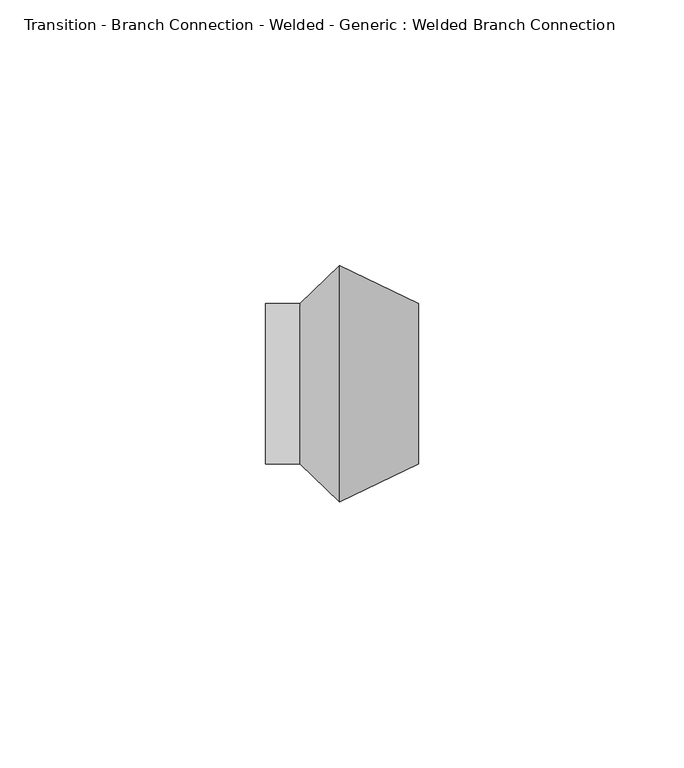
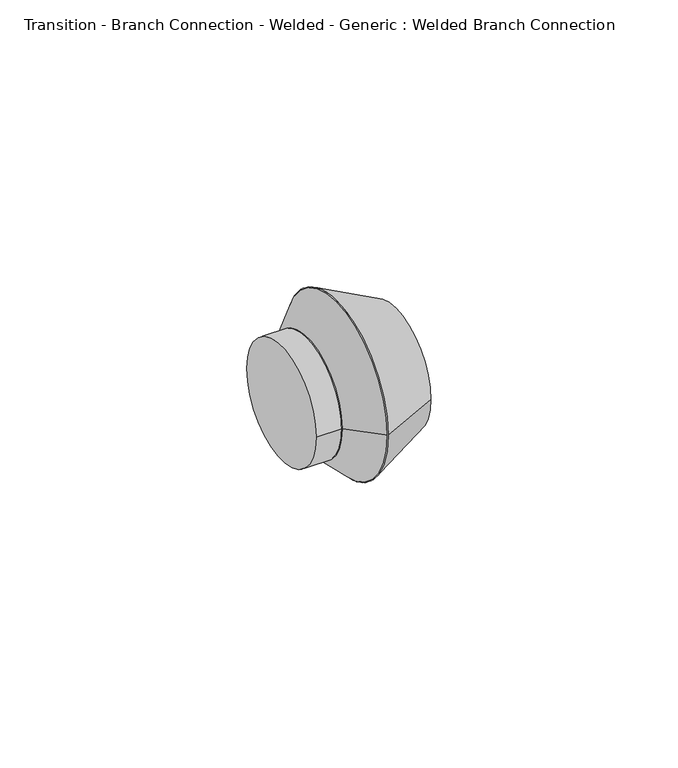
"""IFC4 building model written with IfcOpenShell, lengths in millimetres: pipe fitting geometry, Transition - Branch Connection - Welded - Generic : Welded Branch Connection."""

from ifc_helpers import new_model, si_unit, point, frame, origin, origin_2d, place, context, project, spatial, polyline, circle_curve, trimmed, segment, composite_curve, outline, extrude, source, transform, mapped, element, save
from ifc_brep_helpers import plane_surface, revolved_surface, advanced_brep


def transition_branch_connection_welded_generic_welded_branch_24e244e9(model_context):
    return source(origin(), model_context, "Body", "SolidModel", [
        advanced_brep(
        [(7.4083333, 22.225, 0.0), (7.4083333, -22.225, 0.0), (22.225, 15.08125, 0.0), (22.225, -15.08125, 0.0)],
        [
            (0, 1, circle_curve(frame((7.4083333, 0.0, 0.0), z_axis=(-1.0, 0.0, 0.0), x_axis=(0.0, -1.0, 0.0)), 22.225)),
            (1, 0, circle_curve(frame((7.4083333, 0.0, 0.0), z_axis=(-1.0, 0.0, 0.0), x_axis=(0.0, 1.0, 0.0)), 22.225)),
            (2, 3, circle_curve(frame((22.225, 0.0, 0.0), z_axis=(1.0, 0.0, 0.0), x_axis=(0.0, 1.0, 0.0)), 15.08125)),
            (3, 2, circle_curve(frame((22.225, 0.0, 0.0), z_axis=(1.0, 0.0, 0.0), x_axis=(0.0, -1.0, 0.0)), 15.08125)),
            (3, 1),
            (0, 2),
        ],
        [
            plane_surface(frame((7.4083333, 0.0, 0.0), z_axis=(-1.0, 0.0, 0.0), x_axis=(0.0, 0.0, -1.0))),
            plane_surface(frame((22.225, 0.0, 0.0), z_axis=(1.0, 0.0, 0.0), x_axis=(0.0, 0.0, -1.0))),
            revolved_surface(polyline([(22.225000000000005, -15.081249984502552, 0.0), (7.4083333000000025, -22.225, 0.0)]), (53.5046296, 0.0, 0.0), (-1.0, 0.0, 0.0)),
            revolved_surface(polyline([(22.225000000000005, 15.081249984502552, 0.0), (7.4083333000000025, 22.225, 0.0)]), (53.5046296, 0.0, 0.0), (-1.0, 0.0, 0.0)),
        ],
        [
            (0, [[1, 2]]),
            (1, [[3, 4]]),
            (2, [[5, -1, 6, -4]]),
            (3, [[-6, -2, -5, -3]]),
        ],
    ),
        advanced_brep(
        [(7.4083333, 22.225, 0.0), (7.4083333, -22.225, 0.0), (0.0, 15.08125, 0.0), (0.0, -15.08125, 0.0)],
        [
            (0, 1, circle_curve(frame((7.4083333, 0.0, 0.0), z_axis=(1.0, 0.0, 0.0), x_axis=(0.0, -1.0, 0.0)), 22.225)),
            (1, 0, circle_curve(frame((7.4083333, 0.0, 0.0), z_axis=(1.0, 0.0, 0.0), x_axis=(0.0, 1.0, 0.0)), 22.225)),
            (2, 3, circle_curve(frame((0.0, 0.0, 0.0), z_axis=(-1.0, 0.0, 0.0), x_axis=(0.0, 1.0, 0.0)), 15.08125)),
            (3, 2, circle_curve(frame((0.0, 0.0, 0.0), z_axis=(-1.0, 0.0, 0.0), x_axis=(0.0, -1.0, 0.0)), 15.08125)),
            (2, 0),
            (1, 3),
        ],
        [
            plane_surface(frame((7.4083333, 0.0, 0.0), z_axis=(1.0, 0.0, 0.0), x_axis=(0.0, 0.0, -1.0))),
            plane_surface(frame((0.0, 0.0, 0.0), z_axis=(-1.0, 0.0, 0.0), x_axis=(0.0, 0.0, -1.0))),
            revolved_surface(polyline([(0.0, 15.08125001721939, 0.0), (7.408333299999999, 22.225, 0.0)]), (-15.6398148, 0.0, 0.0), (1.0, 0.0, 0.0)),
            revolved_surface(polyline([(0.0, -15.08125001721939, 0.0), (7.408333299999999, -22.225, 0.0)]), (-15.6398148, 0.0, 0.0), (1.0, 0.0, 0.0)),
        ],
        [
            (0, [[1, 2]]),
            (1, [[3, 4]]),
            (2, [[5, -2, 6, -3]]),
            (3, [[-6, -1, -5, -4]]),
        ],
    ),
        extrude(outline(composite_curve([segment(trimmed(circle_curve(origin_2d(), 15.08125), [point((15.08125, 0.0))], [point((-15.08125, 0.0))], False, "CARTESIAN"), True, "CONTINUOUS"), segment(trimmed(circle_curve(origin_2d(), 15.08125), [point((-15.08125, 0.0))], [point((15.08125, 0.0))], False, "CARTESIAN"), True, "CONTINUOUS")], self_intersect=False)), frame((-6.5127063, 0.0, 0.0), z_axis=(1.0, 0.0, 0.0), x_axis=(0.0, 1.0, 0.0)), (0.0, 0.0, 1.0), 6.5127063),
    ])


if __name__ == "__main__":
    model = new_model("IFC4")
    model_context = context("Model", 3, world=origin())
    ifc_project = project(units=[si_unit("LENGTHUNIT", "METRE", prefix="MILLI")], contexts=[model_context])
    site = spatial("IfcSite", under=ifc_project)
    building = spatial("IfcBuilding", under=site)
    placement = place(None, origin())
    transition_branch_connection_welded_generic_welded_branch_shape = transition_branch_connection_welded_generic_welded_branch_24e244e9(model_context)
    element("IfcPipeFitting", 1, ObjectType="Transition - Branch Connection - Welded - Generic : Welded Branch Connection", at=placement, inside=building, context=model_context, shape_type="MappedRepresentation", body=[
        mapped(transition_branch_connection_welded_generic_welded_branch_shape, transform((0.0, 0.0, 0.0), x_axis=(1.0, 0.0, 0.0), y_axis=(0.0, 1.0, 0.0), z_axis=(0.0, 0.0, 1.0))),
    ])
    save(model, "model.ifc")
